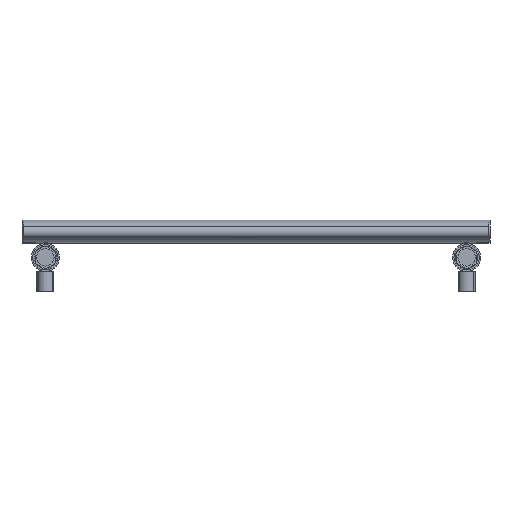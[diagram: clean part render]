
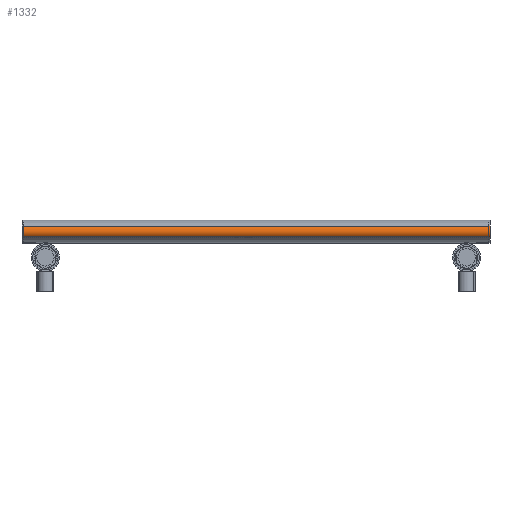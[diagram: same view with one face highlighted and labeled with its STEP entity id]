
A CAD part, front view. The second image highlights one B-rep face of the part: STEP entity #1332.
In plain terms, the highlighted cylindrical face has radius 7.112 mm (diameter 14.225 mm), a partial arc.
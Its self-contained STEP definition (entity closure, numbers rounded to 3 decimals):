
#160=LINE('',#3784,#192);
#162=LINE('',#3798,#194);
#192=VECTOR('',#1636,10.);
#194=VECTOR('',#1654,10.);
#275=CIRCLE('',#1453,7.112);
#278=CIRCLE('',#1459,7.112);
#429=FACE_OUTER_BOUND('',#570,.T.);
#570=EDGE_LOOP('',(#1135,#1136,#1137,#1138));
#768=VERTEX_POINT('',#3781);
#769=VERTEX_POINT('',#3783);
#771=VERTEX_POINT('',#3789);
#773=VERTEX_POINT('',#3797);
#896=EDGE_CURVE('',#769,#768,#160,.T.);
#900=EDGE_CURVE('',#771,#768,#275,.T.);
#903=EDGE_CURVE('',#773,#771,#162,.T.);
#905=EDGE_CURVE('',#769,#773,#278,.T.);
#1135=ORIENTED_EDGE('',*,*,#896,.T.);
#1136=ORIENTED_EDGE('',*,*,#900,.F.);
#1137=ORIENTED_EDGE('',*,*,#903,.F.);
#1138=ORIENTED_EDGE('',*,*,#905,.F.);
#1289=CYLINDRICAL_SURFACE('',#1458,7.112);
#1332=ADVANCED_FACE('',(#429),#1289,.T.);
#1453=AXIS2_PLACEMENT_3D('',#3791,#1645,#1646);
#1458=AXIS2_PLACEMENT_3D('',#3800,#1657,#1658);
#1459=AXIS2_PLACEMENT_3D('',#3801,#1659,#1660);
#1636=DIRECTION('',(0.,0.,1.));
#1645=DIRECTION('center_axis',(0.,0.,1.));
#1646=DIRECTION('ref_axis',(-0.552,0.834,0.));
#1654=DIRECTION('',(0.,0.,1.));
#1657=DIRECTION('center_axis',(0.,0.,1.));
#1658=DIRECTION('ref_axis',(-0.552,0.834,0.));
#1659=DIRECTION('center_axis',(0.,0.,-1.));
#1660=DIRECTION('ref_axis',(-0.552,0.834,0.));
#3781=CARTESIAN_POINT('',(-21.816,-18.429,250.));
#3783=CARTESIAN_POINT('',(-21.816,-18.429,-250.));
#3784=CARTESIAN_POINT('',(-21.816,-18.429,0.));
#3789=CARTESIAN_POINT('',(-21.816,-6.571,250.));
#3791=CARTESIAN_POINT('Origin',(-17.888,-12.5,250.));
#3797=CARTESIAN_POINT('',(-21.816,-6.571,-250.));
#3798=CARTESIAN_POINT('',(-21.816,-6.571,0.));
#3800=CARTESIAN_POINT('Origin',(-17.888,-12.5,0.));
#3801=CARTESIAN_POINT('Origin',(-17.888,-12.5,-250.));
